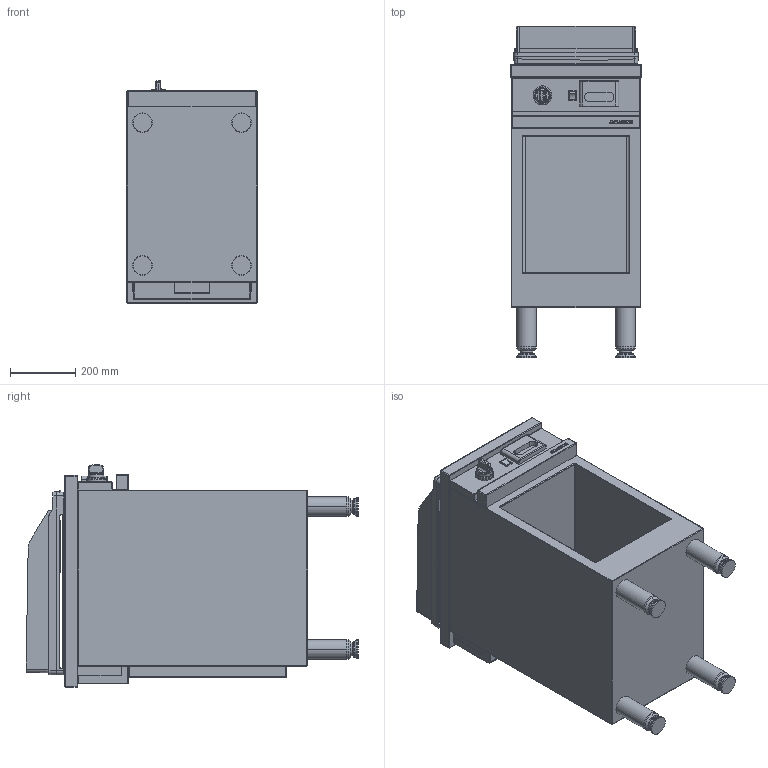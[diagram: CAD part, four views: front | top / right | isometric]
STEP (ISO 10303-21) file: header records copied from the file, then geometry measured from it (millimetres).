
FILE_DESCRIPTION((''),'2;1');
FILE_NAME('CME410GR_EXPORT_STEP_ASM','2017-11-22T',('r.avril'),(''),'PRO/ENGINEER BY PARAMETRIC TECHNOLOGY CORPORATION, 2014200','PRO/ENGINEER BY PARAMETRIC TECHNOLOGY CORPORATION, 2014200','');
FILE_SCHEMA(('AP203_CONFIGURATION_CONTROLLED_3D_DESIGN_OF_MECHANICAL_PARTS_AND_ASSEMBLIES_MIM_LF { 1 0 10303 403 2 1 2 }'));
Products named in the file (10): MODULES_AMB_400_EXPORT_STEP; TABLE_410_GRILLADE; TABLE_410_GRILLADE_ASM; TIROIR_GRILLADE_EXPORT_STEP; MANETTE_AMB_EXPORT_STEP; BASCULEUR_AMB_EXPORT_DXF; 65062006; 50288400; 90000920_ASM; CME410GR_EXPORT_STEP_ASM
Assembly tree (9 placements, depth 3):
  CME410GR_EXPORT_STEP_ASM
    MODULES_AMB_400_EXPORT_STEP
    TABLE_410_GRILLADE_ASM
      TABLE_410_GRILLADE
    TIROIR_GRILLADE_EXPORT_STEP
    MANETTE_AMB_EXPORT_STEP
    BASCULEUR_AMB_EXPORT_DXF
    90000920_ASM
      65062006
      50288400
Bounding box: 400 x 1019.04 x 682.5 mm (x, y, z)
Volume: 59920863.3 mm3; surface area: 5014861.9 mm2
Topology: 14 solids, 46 shells, 1915 faces, 4840 edges, 3263 vertices
Faces by surface type: cylinder 598, bspline 418, plane 401, torus 292, sphere 108, cone 98
Entity records: 90008 total; most frequent: CARTESIAN_POINT 32048, DIRECTION 8775, ORIENTED_EDGE 8683, EDGE_CURVE 4592, PRESENTATION_STYLE_ASSIGNMENT 3762, STYLED_ITEM 3762, CURVE_STYLE 3570, AXIS2_PLACEMENT_3D 3507
